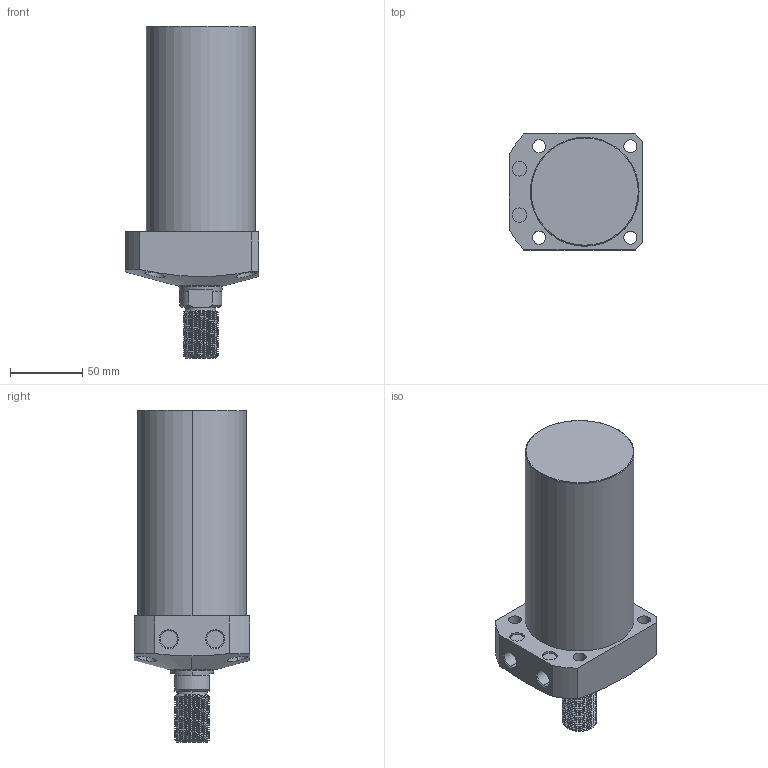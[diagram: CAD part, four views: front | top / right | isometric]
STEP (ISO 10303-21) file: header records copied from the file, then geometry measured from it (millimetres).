
FILE_DESCRIPTION (( 'STEP AP203' ), '1' );
FILE_NAME ('CLL-075CT-105.STEP', '2020-01-08T12:04:20', ( '' ), ( '' ), 'SwSTEP 2.0', 'SolidWorks 2015', '' );
FILE_SCHEMA (( 'CONFIG_CONTROL_DESIGN' ));
Length unit declared in the file: millimetre
Products named in the file (1): CLL-075CT-105
Bounding box: 92 x 80 x 229 mm (x, y, z)
Volume: 868499.5 mm3; surface area: 68341.3 mm2
Topology: 1 solids, 1 shells, 121 faces, 310 edges, 202 vertices
Faces by surface type: cylinder 77, plane 23, cone 17, torus 2, bspline 2
Entity records: 6551 total; most frequent: CARTESIAN_POINT 3761, ORIENTED_EDGE 620, DIRECTION 517, EDGE_CURVE 310, AXIS2_PLACEMENT_3D 204, VERTEX_POINT 202, EDGE_LOOP 140, FACE_OUTER_BOUND 121
